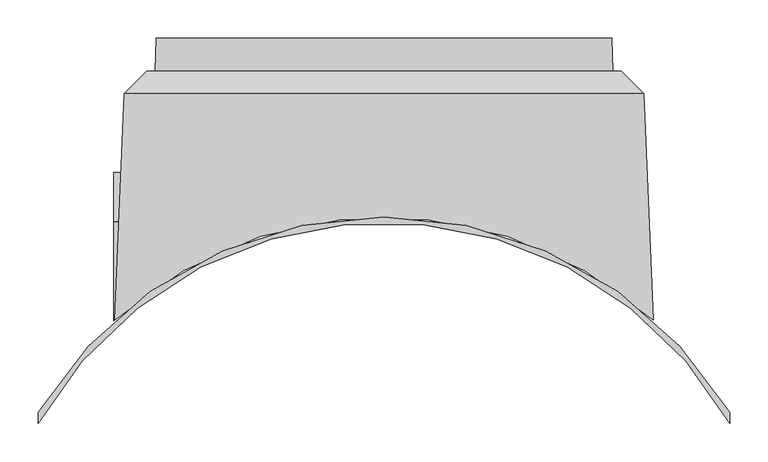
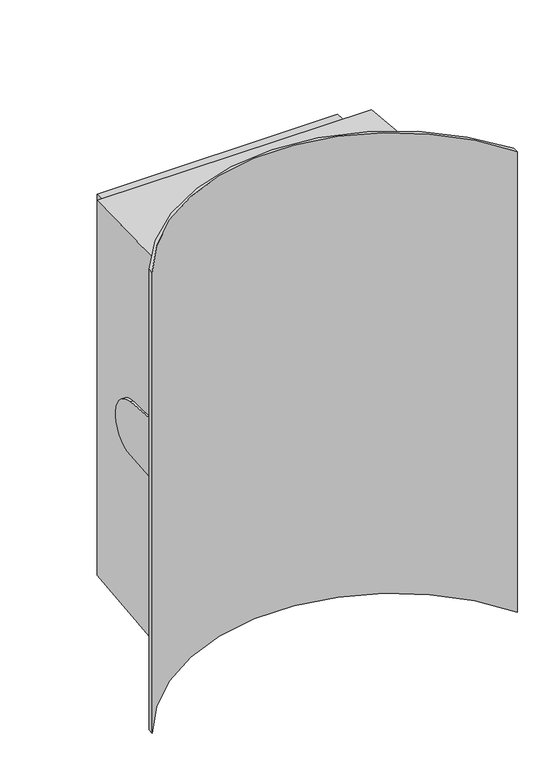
"""IFC4 building model written with IfcOpenShell, lengths in millimetres: proxy geometry, SU.MRADAPTOR.1050.600Lx900W."""

from ifc_helpers import new_model, si_unit, frame, origin, place, context, project, spatial, polyline, circle_curve, ellipse_curve, source, transform, mapped, element, save
from ifc_brep_helpers import plane_surface, cylinder_surface, revolved_surface, advanced_brep


def generic_models_571ec50f(model_context):
    return source(origin(), model_context, "Body", "AdvancedBrep", [
        advanced_brep(
        [(296.4984069, 250.0, -446.4984069), (-296.4984069, 250.0, -446.4984069), (-296.4984069, 250.0, 446.4984069), (296.4984069, 250.0, 446.4984069), (298.0, 207.0, -448.0), (-298.0, 207.0, -448.0), (-298.0, 207.0, 448.0), (298.0, 207.0, 448.0), (450.0, -237.5836543, -600.0), (-450.0, -237.5836543, -600.0), (-450.0, -237.5836543, 600.0), (450.0, -237.5836543, 600.0), (-350.5486776, -117.1795494, -500.5486776), (350.5486776, -117.1795494, -500.5486776), (350.5486776, -117.1795494, 500.5486776), (-350.5486776, -117.1795494, 500.5486776), (-350.5486776, -117.1795494, 80.0263231), (-352.0, -118.4862005, 80.1308552), (-352.0, -118.4862005, -80.1308552), (-350.5486776, -117.1795494, -80.0263231), (-338.1192031, 178.0204704, -488.1192031), (338.1192031, 178.0204704, -488.1192031), (-345.1543336, 10.9361204, -69.7770695), (-345.1543336, 10.9361204, 69.7770695), (-338.1192031, 178.0204704, 488.1192031), (-309.1396735, 207.0, -459.1396735), (309.1396735, 207.0, -459.1396735), (-309.1396735, 207.0, 459.1396735), (338.1192031, 178.0204704, 488.1192031), (309.1396735, 207.0, 459.1396735), (-352.0, 10.9361204, 69.7770695), (-352.0, 10.9361204, -69.7770695), (-450.0, -251.4381166, -600.0), (-450.0, -251.4381166, 600.0), (450.0, -251.4381166, -600.0), (450.0, -251.4381166, 600.0)],
        [
            (0, 1),
            (1, 2),
            (2, 3),
            (3, 0),
            (0, 4),
            (4, 5),
            (5, 1),
            (5, 6),
            (6, 2),
            (3, 7),
            (7, 4),
            (6, 7),
            (8, 9, circle_curve(frame((0.0, -508.0, -600.0), z_axis=(0.0, 0.0, 1.0), x_axis=(0.8571428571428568, 0.5150787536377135, 0.0)), 525.0)),
            (9, 10),
            (10, 11, circle_curve(frame((0.0, -508.0, 600.0), z_axis=(0.0, 0.0, -1.0), x_axis=(0.8571428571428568, 0.5150787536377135, 0.0)), 525.0)),
            (11, 8),
            (12, 13, ellipse_curve(frame((0.0, -508.0, -517.0042756), z_axis=(0.0, 0.04206798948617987, -0.9991147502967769), x_axis=(0.0, 0.9991147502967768, 0.042067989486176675)), 525.4651679, 525.0)),
            (13, 14),
            (14, 15, ellipse_curve(frame((0.0, -508.0, 517.0042756), z_axis=(0.0, 0.04206798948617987, 0.9991147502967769), x_axis=(0.0, -0.9991147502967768, 0.042067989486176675)), 525.4651679, 525.0)),
            (15, 16),
            (16, 17, ellipse_curve(frame((0.0, -508.0, 111.2919591), z_axis=(0.0, 0.07974522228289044, 0.9968152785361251), x_axis=(0.0, -0.9968152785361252, 0.07974522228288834)), 526.6773206, 525.0)),
            (17, 18),
            (18, 19, ellipse_curve(frame((0.0, -508.0, -111.2919591), z_axis=(0.0, 0.0797452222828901, -0.9968152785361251), x_axis=(0.0, 0.9968152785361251, 0.07974522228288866)), 526.6773206, 525.0)),
            (19, 12),
            (12, 20),
            (20, 21),
            (21, 13),
            (19, 22),
            (22, 23, ellipse_curve(frame((-345.3893722, 5.3539549, 0.0), z_axis=(0.9991147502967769, -0.04206798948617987, 0.0), x_axis=(-0.042067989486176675, -0.9991147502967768, 0.0)), 70.0620224, 70.0)),
            (23, 16),
            (15, 24),
            (24, 20),
            (20, 25),
            (25, 26),
            (26, 21),
            (24, 27),
            (27, 25),
            (28, 21),
            (26, 29),
            (29, 28),
            (28, 14),
            (28, 24),
            (29, 27),
            (30, 17),
            (23, 30),
            (18, 31),
            (31, 22),
            (9, 32),
            (32, 33),
            (33, 10),
            (32, 34, circle_curve(frame((0.0, -508.0, -600.0), z_axis=(0.0, 0.0, -1.0), x_axis=(-0.8687258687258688, -0.4952932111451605, 0.0)), 518.0)),
            (34, 35),
            (35, 33, circle_curve(frame((0.0, -508.0, 600.0), z_axis=(0.0, 0.0, 1.0), x_axis=(-0.8687258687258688, -0.4952932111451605, 0.0)), 518.0)),
            (11, 35),
            (34, 8),
            (30, 31, circle_curve(frame((-352.0, 5.3539549, 0.0), z_axis=(-1.0, 0.0, 0.0), x_axis=(0.0, 0.07974522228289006, -0.996815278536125)), 70.0)),
        ],
        [
            plane_surface(frame((248.0, 250.0, -446.4984069), z_axis=(0.0, 1.0, 0.0), x_axis=(0.0, 0.0, 1.0))),
            plane_surface(frame((-248.0, 207.0, -448.0), z_axis=(0.0, 0.03489949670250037, -0.9993908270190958), x_axis=(0.0, 0.9993908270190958, 0.03489949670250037))),
            plane_surface(frame((-298.0, 207.0, 398.0), z_axis=(-0.9993908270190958, 0.03489949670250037, 0.0), x_axis=(0.03489949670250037, 0.9993908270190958, 0.0))),
            plane_surface(frame((298.0, 207.0, -398.0), z_axis=(0.9993908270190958, 0.03489949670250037, 0.0), x_axis=(-0.03489949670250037, 0.9993908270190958, 0.0))),
            plane_surface(frame((248.0, 207.0, 448.0), z_axis=(0.0, 0.03489949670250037, 0.9993908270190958), x_axis=(0.0, 0.9993908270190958, -0.03489949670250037))),
            cylinder_surface(frame((0.0, -508.0, 0.0), z_axis=(0.0, 0.0, 1.0), x_axis=(0.8571428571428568, 0.5150787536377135, 0.0)), 525.0),
            plane_surface(frame((-248.0, -299.4172684, -508.2218447), z_axis=(0.0, 0.04206798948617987, -0.9991147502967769), x_axis=(0.0, 0.9991147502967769, 0.04206798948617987))),
            plane_surface(frame((-358.2218447, -299.4172684, 398.0), z_axis=(-0.9991147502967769, 0.04206798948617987, 0.0), x_axis=(0.04206798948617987, 0.9991147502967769, 0.0))),
            plane_surface(frame((-248.0, 178.0204704, -488.1192031), z_axis=(0.0, 0.7071067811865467, -0.7071067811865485), x_axis=(0.0, 0.7071067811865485, 0.7071067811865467))),
            plane_surface(frame((-338.1192031, 178.0204704, 398.0), z_axis=(-0.7071067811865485, 0.7071067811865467, 0.0), x_axis=(0.7071067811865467, 0.7071067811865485, 0.0))),
            plane_surface(frame((338.1192031, 178.0204704, -398.0), z_axis=(0.7071067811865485, 0.7071067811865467, 0.0), x_axis=(-0.7071067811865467, 0.7071067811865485, 0.0))),
            plane_surface(frame((358.2218447, -299.4172684, -398.0), z_axis=(0.9991147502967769, 0.04206798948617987, 0.0), x_axis=(-0.04206798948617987, 0.9991147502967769, 0.0))),
            plane_surface(frame((248.0, -299.4172684, 508.2218447), z_axis=(0.0, 0.04206798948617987, 0.9991147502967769), x_axis=(0.0, 0.9991147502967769, -0.04206798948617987))),
            plane_surface(frame((248.0, 178.0204704, 488.1192031), z_axis=(0.0, 0.7071067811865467, 0.7071067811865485), x_axis=(0.0, 0.7071067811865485, -0.7071067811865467))),
            plane_surface(frame((248.0, 207.0, -459.1396735), z_axis=(0.0, 1.0, 0.0), x_axis=(0.0, 0.0, 1.0))),
            plane_surface(frame((0.0, -235.671196, 89.5056548), z_axis=(0.0, 0.07974522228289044, 0.9968152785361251), x_axis=(0.0, 0.9968152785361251, -0.07974522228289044))),
            plane_surface(frame((0.0, 10.9361204, -69.7770695), z_axis=(0.0, 0.0797452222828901, -0.9968152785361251), x_axis=(0.0, -0.9968152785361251, -0.0797452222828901))),
            plane_surface(frame((-450.0, -237.5836543, 0.0), z_axis=(-1.0, 0.0, 0.0), x_axis=(0.0, -1.0, 0.0))),
            revolved_surface(polyline([(-450.0, -764.5618833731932, 599.9999999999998), (-450.0, -764.5618833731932, -599.9999999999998)]), (0.0, -508.0, 0.0), (0.0, 0.0, 0.9999999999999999)),
            plane_surface(frame((450.0, -251.4381166, 0.0), z_axis=(1.0, 0.0, 0.0), x_axis=(0.0, 1.0, 0.0))),
            plane_surface(frame((-352.0, -80.1586206, 0.0), z_axis=(-1.0, 0.0, 0.0), x_axis=(0.0, 0.0, -1.0))),
            cylinder_surface(frame((0.0, 5.3539549, 0.0), z_axis=(-0.9999999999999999, 0.0, 0.0), x_axis=(0.0, 0.07974522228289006, -0.996815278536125)), 70.0),
            plane_surface(frame((0.0, -117.2190583, 600.0), z_axis=(0.0, 0.0, 1.0), x_axis=(1.0, 0.0, 0.0))),
            plane_surface(frame((0.0, -117.2190583, -600.0), z_axis=(0.0, 0.0, -1.0), x_axis=(1.0, 0.0, 0.0))),
        ],
        [
            (0, [[1, 2, 3, 4]]),
            (1, [[-1, 5, 6, 7]]),
            (2, [[-7, 8, 9, -2]]),
            (3, [[-4, 10, 11, -5]]),
            (4, [[-3, -9, 12, -10]]),
            (5, [[13, 14, 15, 16], [17, 18, 19, 20, 21, 22, 23, 24]]),
            (6, [[25, 26, 27, -17]]),
            (7, [[-24, 28, 29, 30, -20, 31, 32, -25]]),
            (8, [[-26, 33, 34, 35]]),
            (9, [[-32, 36, 37, -33]]),
            (10, [[38, -35, 39, 40]]),
            (11, [[-27, -38, 41, -18]]),
            (12, [[-19, -41, 42, -31]]),
            (13, [[-42, -40, 43, -36]]),
            (14, [[-34, -37, -43, -39], [-6, -11, -12, -8]]),
            (15, [[44, -21, -30, 45]]),
            (16, [[46, 47, -28, -23]]),
            (17, [[-14, 48, 49, 50]]),
            (18, [[-49, 51, 52, 53]]),
            (19, [[-16, 54, -52, 55]]),
            (20, [[-44, 56, -46, -22]]),
            (21, [[-56, -45, -29, -47]]),
            (22, [[-50, -53, -54, -15]]),
            (23, [[-48, -13, -55, -51]]),
        ],
    ),
    ])


if __name__ == "__main__":
    model = new_model("IFC4")
    model_context = context("Model", 3, world=origin())
    ifc_project = project(units=[si_unit("LENGTHUNIT", "METRE", prefix="MILLI")], contexts=[model_context])
    site = spatial("IfcSite", under=ifc_project)
    building = spatial("IfcBuilding", under=site)
    placement = place(None, origin())
    generic_models_shape = generic_models_571ec50f(model_context)
    element("IfcBuildingElementProxy", 1, Name="SU.MRADAPTOR.1050.600Lx900W", ObjectType="SU.MRADAPTOR.1050.600Lx900W", at=placement, inside=building, context=model_context, shape_type="MappedRepresentation", body=[
        mapped(generic_models_shape, transform((0.0, 0.0, 0.0), x_axis=(1.0, 0.0, 0.0), y_axis=(0.0, 1.0, 0.0), z_axis=(0.0, 0.0, 1.0))),
    ])
    save(model, "model.ifc")
